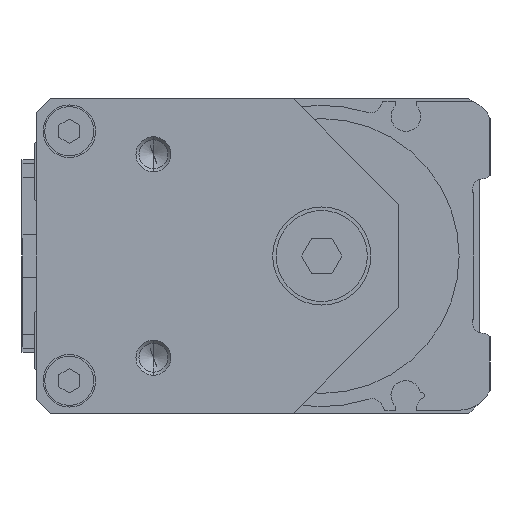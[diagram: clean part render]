
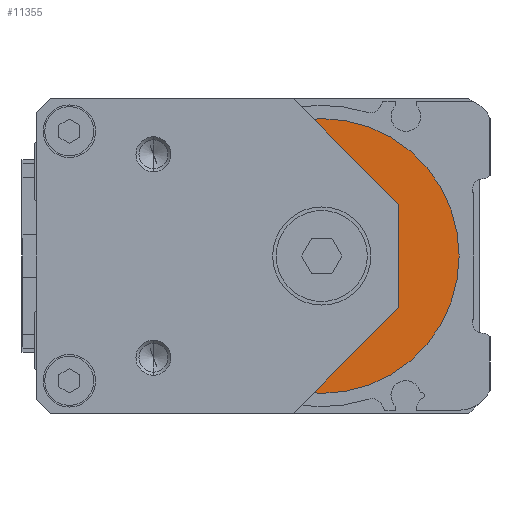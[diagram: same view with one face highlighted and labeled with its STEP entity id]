
A CAD part, left-side view. The second image highlights one B-rep face of the part: STEP entity #11355.
In plain terms, the highlighted planar face has unit normal (-1, 0, 0) as drawn and (0, 0, 1) by its records, which use the part's own axes.
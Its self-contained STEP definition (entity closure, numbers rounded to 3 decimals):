
#370 = AXIS2_PLACEMENT_3D ( 'NONE', #38856, #4992, #15308 ) ;
#2654 = EDGE_CURVE ( 'NONE', #32834, #18834, #4546, .T. ) ;
#4546 = CIRCLE ( 'NONE', #370, 19.6 ) ;
#4992 = DIRECTION ( 'NONE',  ( 0., 0., 1. ) ) ;
#5476 = CIRCLE ( 'NONE', #34092, 19.6 ) ;
#6888 = DIRECTION ( 'NONE',  ( 0., 0., 1. ) ) ;
#7764 = VERTEX_POINT ( 'NONE', #21891 ) ;
#8361 = CARTESIAN_POINT ( 'NONE',  ( 0., 0., -1. ) ) ;
#9057 = EDGE_CURVE ( 'NONE', #7764, #32850, #39088, .T. ) ;
#9517 = EDGE_CURVE ( 'NONE', #32850, #7764, #28542, .T. ) ;
#11236 = DIRECTION ( 'NONE',  ( 0., 0., 1. ) ) ;
#11355 = ADVANCED_FACE ( 'NONE', ( #41135, #27998 ), #11678, .T. ) ;
#11668 = ORIENTED_EDGE ( 'NONE', *, *, #2654, .T. ) ;
#11678 = PLANE ( 'NONE',  #40763 ) ;
#12378 = EDGE_LOOP ( 'NONE', ( #37942, #11668 ) ) ;
#14023 = AXIS2_PLACEMENT_3D ( 'NONE', #19518, #19303, #15828 ) ;
#15308 = DIRECTION ( 'NONE',  ( 1., 0., 0. ) ) ;
#15828 = DIRECTION ( 'NONE',  ( 1., 0., 0. ) ) ;
#16221 = DIRECTION ( 'NONE',  ( 0., 0., 1. ) ) ;
#16990 = CARTESIAN_POINT ( 'NONE',  ( 0., 0., -1. ) ) ;
#17417 = EDGE_CURVE ( 'NONE', #18834, #32834, #5476, .T. ) ;
#17427 = AXIS2_PLACEMENT_3D ( 'NONE', #16990, #6888, #35072 ) ;
#18834 = VERTEX_POINT ( 'NONE', #24389 ) ;
#19303 = DIRECTION ( 'NONE',  ( 0., 0., 1. ) ) ;
#19518 = CARTESIAN_POINT ( 'NONE',  ( 0., 0., -1. ) ) ;
#19711 = DIRECTION ( 'NONE',  ( 1., 0., 0. ) ) ;
#19918 = CARTESIAN_POINT ( 'NONE',  ( 0., 0., -1. ) ) ;
#21156 = EDGE_LOOP ( 'NONE', ( #30694, #27908 ) ) ;
#21891 = CARTESIAN_POINT ( 'NONE',  ( -10., 0., -1. ) ) ;
#24389 = CARTESIAN_POINT ( 'NONE',  ( 19.6, 0., -1. ) ) ;
#27908 = ORIENTED_EDGE ( 'NONE', *, *, #9517, .F. ) ;
#27998 = FACE_OUTER_BOUND ( 'NONE', #12378, .T. ) ;
#28542 = CIRCLE ( 'NONE', #17427, 10. ) ;
#30694 = ORIENTED_EDGE ( 'NONE', *, *, #9057, .F. ) ;
#32375 = CARTESIAN_POINT ( 'NONE',  ( -19.6, 0., -1. ) ) ;
#32834 = VERTEX_POINT ( 'NONE', #32375 ) ;
#32850 = VERTEX_POINT ( 'NONE', #38266 ) ;
#34092 = AXIS2_PLACEMENT_3D ( 'NONE', #19918, #16221, #19711 ) ;
#34134 = DIRECTION ( 'NONE',  ( 1., 0., 0. ) ) ;
#35072 = DIRECTION ( 'NONE',  ( 1., 0., 0. ) ) ;
#37942 = ORIENTED_EDGE ( 'NONE', *, *, #17417, .T. ) ;
#38266 = CARTESIAN_POINT ( 'NONE',  ( 10., 0., -1. ) ) ;
#38856 = CARTESIAN_POINT ( 'NONE',  ( 0., 0., -1. ) ) ;
#39088 = CIRCLE ( 'NONE', #14023, 10. ) ;
#40763 = AXIS2_PLACEMENT_3D ( 'NONE', #8361, #11236, #34134 ) ;
#41135 = FACE_BOUND ( 'NONE', #21156, .T. ) ;
